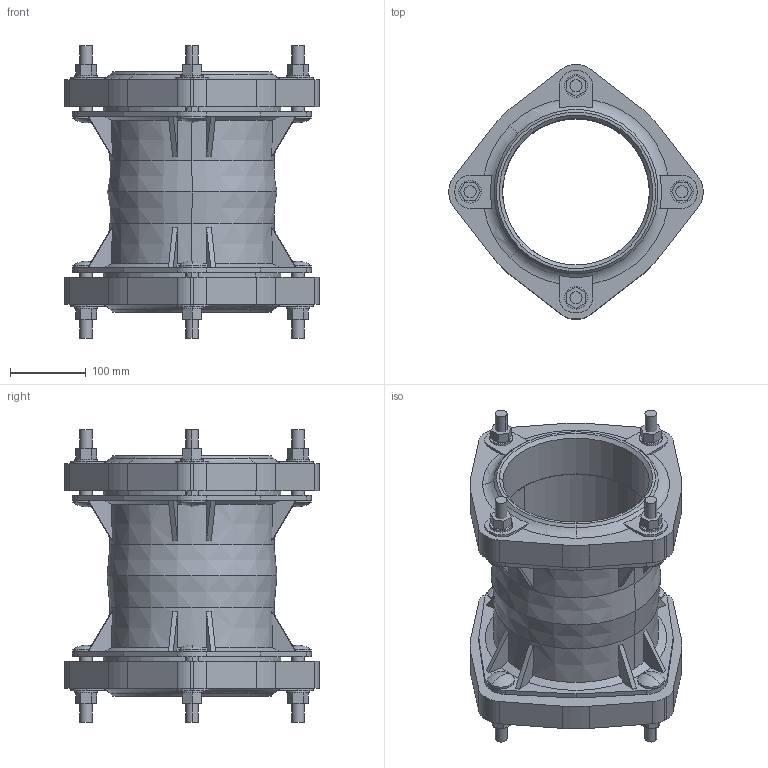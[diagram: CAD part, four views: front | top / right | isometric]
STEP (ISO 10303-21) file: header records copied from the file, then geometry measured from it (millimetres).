
FILE_DESCRIPTION((''),'2;1');
FILE_NAME('BIM_13198_7_ASM','2019-04-09T',('MReader'),(''),'CREO PARAMETRIC BY PTC INC, 2016130','CREO PARAMETRIC BY PTC INC, 2016130','');
FILE_SCHEMA(('CONFIG_CONTROL_DESIGN'));
Length unit declared in the file: millimetre
Products named in the file (3): BIM_13189; BIM_12233; BIM_13198_7_ASM
Assembly tree (3 placements, depth 2):
  BIM_13198_7_ASM
    BIM_13189
    BIM_12233  x2
Bounding box: 335.97 x 335.97 x 386 mm (x, y, z)
Volume: 5715286.5 mm3; surface area: 769322 mm2
Topology: 3 solids, 3 shells, 384 faces, 1008 edges, 650 vertices
Faces by surface type: plane 218, cylinder 106, cone 40, sphere 16, torus 4
Entity records: 8830 total; most frequent: CARTESIAN_POINT 1765, DIRECTION 1470, ORIENTED_EDGE 1448, EDGE_CURVE 724, AXIS2_PLACEMENT_3D 515, VERTEX_POINT 474, VECTOR 440, LINE 440
